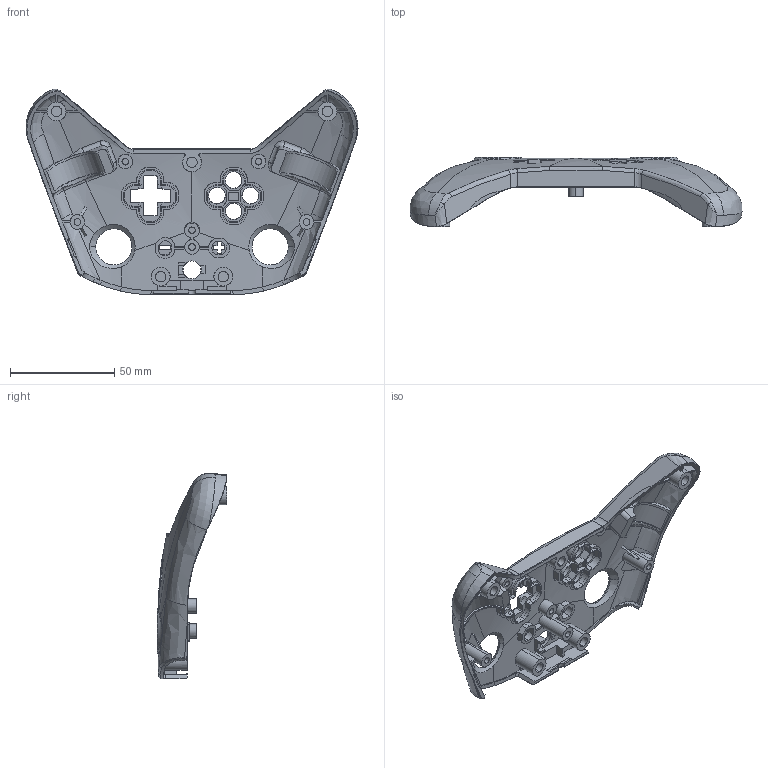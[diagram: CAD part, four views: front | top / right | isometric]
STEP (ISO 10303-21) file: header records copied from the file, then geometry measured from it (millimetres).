
FILE_DESCRIPTION (( 'STEP AP214' ), '1' );
FILE_NAME ('Controller Housing Top.STEP', '2024-12-19T21:57:55', ( '' ), ( '' ), 'SwSTEP 2.0', 'SolidWorks 2022', '' );
FILE_SCHEMA (( 'AUTOMOTIVE_DESIGN' ));
Length unit declared in the file: millimetre
Products named in the file (1): Controller Housing Top
Bounding box: 159.35 x 33.42 x 98.71 mm (x, y, z)
Volume: 35687.3 mm3; surface area: 34309.2 mm2
Topology: 1 solids, 1 shells, 694 faces, 1894 edges, 1217 vertices
Faces by surface type: plane 318, cylinder 178, bspline 176, cone 12, torus 6, sphere 4
Entity records: 57742 total; most frequent: CARTESIAN_POINT 42035, ORIENTED_EDGE 3748, DIRECTION 2547, EDGE_CURVE 1874, VERTEX_POINT 1209, AXIS2_PLACEMENT_3D 851, VECTOR 845, LINE 845
